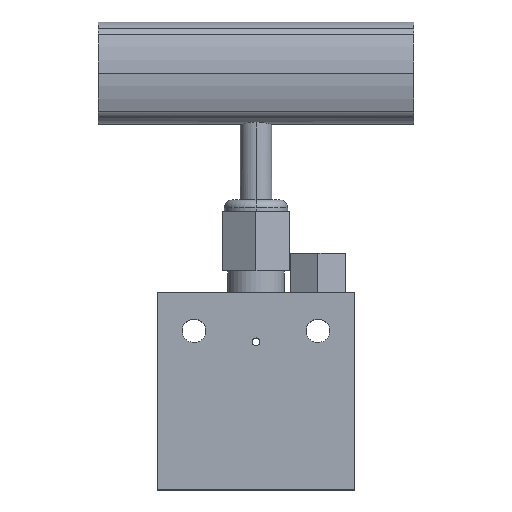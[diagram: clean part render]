
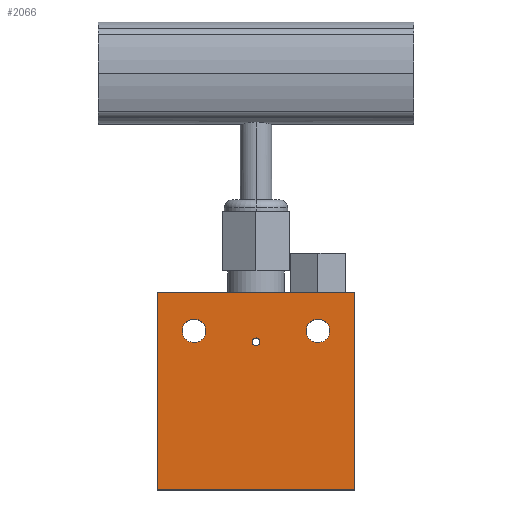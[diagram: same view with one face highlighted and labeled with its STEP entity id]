
A CAD part, top view. The second image highlights one B-rep face of the part: STEP entity #2066.
In plain terms, the highlighted planar face has unit normal (0, 0, 1).
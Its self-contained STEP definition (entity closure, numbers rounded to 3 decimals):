
#36 = DIRECTION ( 'NONE',  ( 0., 0., 1. ) ) ;
#135 = EDGE_LOOP ( 'NONE', ( #1515, #1196 ) ) ;
#158 = DIRECTION ( 'NONE',  ( 0., -1., 0. ) ) ;
#162 = CARTESIAN_POINT ( 'NONE',  ( -25., 31., 10. ) ) ;
#178 = ORIENTED_EDGE ( 'NONE', *, *, #2131, .T. ) ;
#217 = DIRECTION ( 'NONE',  ( 0., 0., 1. ) ) ;
#229 = CIRCLE ( 'NONE', #963, 1. ) ;
#230 = CIRCLE ( 'NONE', #2422, 3. ) ;
#258 = CARTESIAN_POINT ( 'NONE',  ( 0., 18.5, 10. ) ) ;
#271 = EDGE_LOOP ( 'NONE', ( #2445, #1566 ) ) ;
#281 = AXIS2_PLACEMENT_3D ( 'NONE', #863, #1715, #448 ) ;
#338 = VECTOR ( 'NONE', #158, 1000. ) ;
#366 = ORIENTED_EDGE ( 'NONE', *, *, #554, .T. ) ;
#388 = DIRECTION ( 'NONE',  ( 0., 1., 0. ) ) ;
#417 = LINE ( 'NONE', #2384, #1704 ) ;
#421 = VERTEX_POINT ( 'NONE', #2753 ) ;
#429 = AXIS2_PLACEMENT_3D ( 'NONE', #1855, #2767, #776 ) ;
#448 = DIRECTION ( 'NONE',  ( -1., 0., 0. ) ) ;
#460 = DIRECTION ( 'NONE',  ( 1., 0., 0. ) ) ;
#470 = EDGE_CURVE ( 'NONE', #1222, #1609, #1634, .T. ) ;
#489 = VERTEX_POINT ( 'NONE', #989 ) ;
#518 = CIRCLE ( 'NONE', #2103, 3. ) ;
#554 = EDGE_CURVE ( 'NONE', #421, #1677, #2090, .T. ) ;
#563 = FACE_BOUND ( 'NONE', #135, .T. ) ;
#637 = VECTOR ( 'NONE', #460, 1000. ) ;
#679 = VERTEX_POINT ( 'NONE', #1934 ) ;
#771 = VERTEX_POINT ( 'NONE', #1092 ) ;
#776 = DIRECTION ( 'NONE',  ( 1., 0., 0. ) ) ;
#816 = CARTESIAN_POINT ( 'NONE',  ( -18.7, 21.3, 10. ) ) ;
#819 = DIRECTION ( 'NONE',  ( -1., 0., 0. ) ) ;
#848 = CARTESIAN_POINT ( 'NONE',  ( -25., -19., 10. ) ) ;
#863 = CARTESIAN_POINT ( 'NONE',  ( 15.7, 21.3, 10. ) ) ;
#902 = DIRECTION ( 'NONE',  ( 1., 0., 0. ) ) ;
#963 = AXIS2_PLACEMENT_3D ( 'NONE', #258, #36, #902 ) ;
#987 = CARTESIAN_POINT ( 'NONE',  ( 1., 18.5, 10. ) ) ;
#989 = CARTESIAN_POINT ( 'NONE',  ( 25., -19., 10. ) ) ;
#1026 = LINE ( 'NONE', #162, #1767 ) ;
#1058 = LINE ( 'NONE', #2385, #637 ) ;
#1092 = CARTESIAN_POINT ( 'NONE',  ( -1., 18.5, 10. ) ) ;
#1093 = CARTESIAN_POINT ( 'NONE',  ( 15.7, 21.3, 10. ) ) ;
#1154 = ORIENTED_EDGE ( 'NONE', *, *, #1678, .F. ) ;
#1196 = ORIENTED_EDGE ( 'NONE', *, *, #1272, .F. ) ;
#1199 = EDGE_LOOP ( 'NONE', ( #366, #2799, #178, #2787 ) ) ;
#1222 = VERTEX_POINT ( 'NONE', #816 ) ;
#1229 = VERTEX_POINT ( 'NONE', #1410 ) ;
#1231 = VERTEX_POINT ( 'NONE', #987 ) ;
#1272 = EDGE_CURVE ( 'NONE', #1229, #679, #518, .T. ) ;
#1410 = CARTESIAN_POINT ( 'NONE',  ( 12.7, 21.3, 10. ) ) ;
#1414 = FACE_BOUND ( 'NONE', #1572, .T. ) ;
#1470 = DIRECTION ( 'NONE',  ( 0., 0., 1. ) ) ;
#1496 = CARTESIAN_POINT ( 'NONE',  ( 25., 31., 10. ) ) ;
#1515 = ORIENTED_EDGE ( 'NONE', *, *, #2553, .F. ) ;
#1546 = CIRCLE ( 'NONE', #281, 3. ) ;
#1566 = ORIENTED_EDGE ( 'NONE', *, *, #470, .F. ) ;
#1572 = EDGE_LOOP ( 'NONE', ( #1611, #1154 ) ) ;
#1609 = VERTEX_POINT ( 'NONE', #1633 ) ;
#1611 = ORIENTED_EDGE ( 'NONE', *, *, #1860, .F. ) ;
#1633 = CARTESIAN_POINT ( 'NONE',  ( -12.7, 21.3, 10. ) ) ;
#1634 = CIRCLE ( 'NONE', #1925, 3. ) ;
#1677 = VERTEX_POINT ( 'NONE', #848 ) ;
#1678 = EDGE_CURVE ( 'NONE', #771, #1231, #1870, .T. ) ;
#1704 = VECTOR ( 'NONE', #388, 1000. ) ;
#1715 = DIRECTION ( 'NONE',  ( 0., 0., 1. ) ) ;
#1745 = DIRECTION ( 'NONE',  ( 0., 0., 1. ) ) ;
#1767 = VECTOR ( 'NONE', #819, 1000. ) ;
#1778 = EDGE_CURVE ( 'NONE', #1677, #489, #1058, .T. ) ;
#1855 = CARTESIAN_POINT ( 'NONE',  ( 0., 0., 10. ) ) ;
#1860 = EDGE_CURVE ( 'NONE', #1231, #771, #229, .T. ) ;
#1870 = CIRCLE ( 'NONE', #2097, 1. ) ;
#1894 = CARTESIAN_POINT ( 'NONE',  ( -15.7, 21.3, 10. ) ) ;
#1895 = FACE_OUTER_BOUND ( 'NONE', #1199, .T. ) ;
#1911 = DIRECTION ( 'NONE',  ( 1., 0., 0. ) ) ;
#1925 = AXIS2_PLACEMENT_3D ( 'NONE', #1894, #1470, #2069 ) ;
#1933 = DIRECTION ( 'NONE',  ( 0., 0., 1. ) ) ;
#1934 = CARTESIAN_POINT ( 'NONE',  ( 18.7, 21.3, 10. ) ) ;
#1958 = EDGE_CURVE ( 'NONE', #2239, #421, #1026, .T. ) ;
#1961 = CARTESIAN_POINT ( 'NONE',  ( -15.7, 21.3, 10. ) ) ;
#1973 = DIRECTION ( 'NONE',  ( 1., 0., 0. ) ) ;
#1975 = DIRECTION ( 'NONE',  ( -1., 0., 0. ) ) ;
#2066 = ADVANCED_FACE ( 'NONE', ( #1414, #2084, #563, #1895 ), #2325, .T. ) ;
#2069 = DIRECTION ( 'NONE',  ( 1., 0., 0. ) ) ;
#2084 = FACE_BOUND ( 'NONE', #271, .T. ) ;
#2090 = LINE ( 'NONE', #2319, #338 ) ;
#2097 = AXIS2_PLACEMENT_3D ( 'NONE', #2783, #217, #1911 ) ;
#2103 = AXIS2_PLACEMENT_3D ( 'NONE', #1093, #1745, #1975 ) ;
#2131 = EDGE_CURVE ( 'NONE', #489, #2239, #417, .T. ) ;
#2239 = VERTEX_POINT ( 'NONE', #1496 ) ;
#2319 = CARTESIAN_POINT ( 'NONE',  ( -25., 31., 10. ) ) ;
#2325 = PLANE ( 'NONE',  #429 ) ;
#2384 = CARTESIAN_POINT ( 'NONE',  ( 25., 31., 10. ) ) ;
#2385 = CARTESIAN_POINT ( 'NONE',  ( -25., -19., 10. ) ) ;
#2422 = AXIS2_PLACEMENT_3D ( 'NONE', #1961, #1933, #1973 ) ;
#2445 = ORIENTED_EDGE ( 'NONE', *, *, #2677, .F. ) ;
#2553 = EDGE_CURVE ( 'NONE', #679, #1229, #1546, .T. ) ;
#2677 = EDGE_CURVE ( 'NONE', #1609, #1222, #230, .T. ) ;
#2753 = CARTESIAN_POINT ( 'NONE',  ( -25., 31., 10. ) ) ;
#2767 = DIRECTION ( 'NONE',  ( 0., 0., 1. ) ) ;
#2783 = CARTESIAN_POINT ( 'NONE',  ( 0., 18.5, 10. ) ) ;
#2787 = ORIENTED_EDGE ( 'NONE', *, *, #1958, .T. ) ;
#2799 = ORIENTED_EDGE ( 'NONE', *, *, #1778, .T. ) ;
